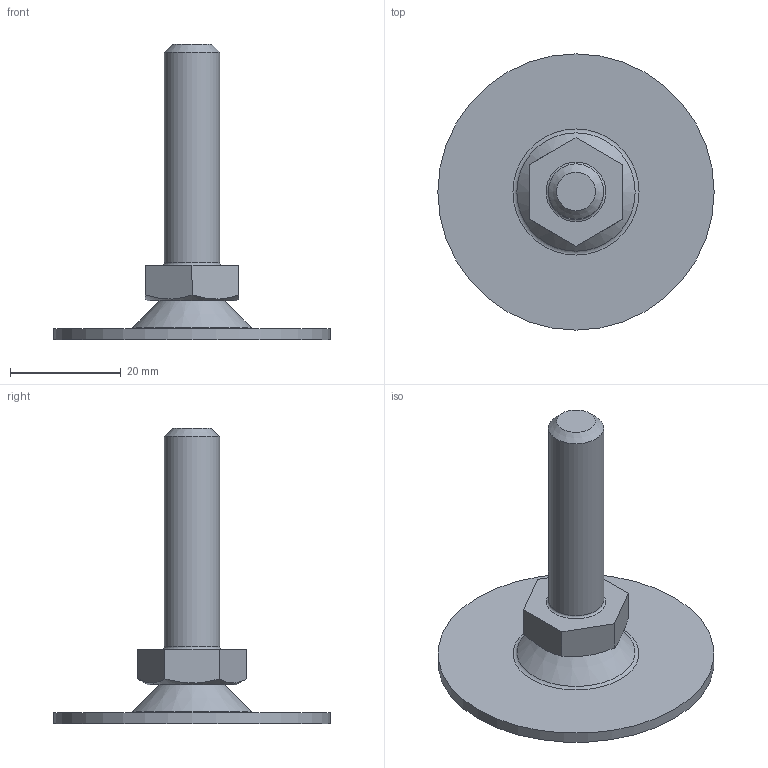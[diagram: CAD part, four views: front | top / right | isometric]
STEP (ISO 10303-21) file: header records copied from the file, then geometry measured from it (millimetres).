
FILE_DESCRIPTION(('STEP AP203'), '1');
FILE_NAME('A00050.1051016', '', ('UNSPECIFIED'), ('UNSPECIFIED'), 'C3D Converter', 'C3D Toolkit', '');
FILE_SCHEMA(('CONFIG_CONTROL_DESIGN'));
Length unit declared in the file: millimetre
Products named in the file (4): A00050.1051040; A00050.1050
Assembly tree (3 placements, depth 2):
  A00050.1051040
    A00050.1050
    (unnamed)
    (unnamed)
Bounding box: 50 x 50 x 53.52 mm (x, y, z)
Volume: 8817.8 mm3; surface area: 6961.9 mm2
Topology: 3 solids, 3 shells, 58 faces, 130 edges, 82 vertices
Faces by surface type: plane 28, torus 8, bspline 8, cone 7, cylinder 6, sphere 1
Full cylindrical faces by diameter (mm): 3.3 x1, 4 x1, 4.5 x1, 8 x1, 10 x1, 50 x1
Entity records: 2171 total; most frequent: CARTESIAN_POINT 784, DIRECTION 242, ORIENTED_EDGE 214, EDGE_CURVE 107, AXIS2_PLACEMENT_3D 95, EDGE_LOOP 86, VERTEX_POINT 81, ADVANCED_FACE 58
